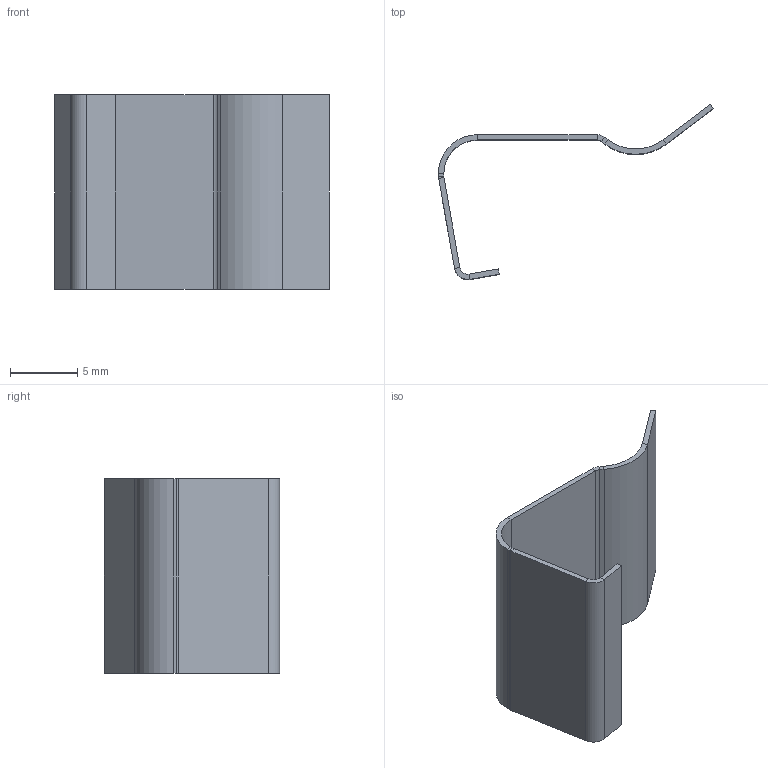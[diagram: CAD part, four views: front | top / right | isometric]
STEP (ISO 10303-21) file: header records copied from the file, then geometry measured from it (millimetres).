
FILE_DESCRIPTION (( 'STEP AP214' ), '1' );
FILE_NAME ('MC797.STEP', '2004-04-07T11:46:09', ( '' ), ( '' ), 'SwSTEP 2.0', 'SolidWorks 2002349', '' );
FILE_SCHEMA (( 'AUTOMOTIVE_DESIGN' ));
Length unit declared in the file: millimetre
Products named in the file (1): MC797
Bounding box: 20.45 x 13.04 x 14.5 mm (x, y, z)
Volume: 194.6 mm3; surface area: 1011.3 mm2
Topology: 1 solids, 1 shells, 46 faces, 92 edges, 48 vertices
Faces by surface type: plane 36, cylinder 10
Entity records: 1159 total; most frequent: DIRECTION 206, CARTESIAN_POINT 187, ORIENTED_EDGE 184, EDGE_CURVE 92, LINE 72, VECTOR 72, AXIS2_PLACEMENT_3D 67, VERTEX_POINT 48
